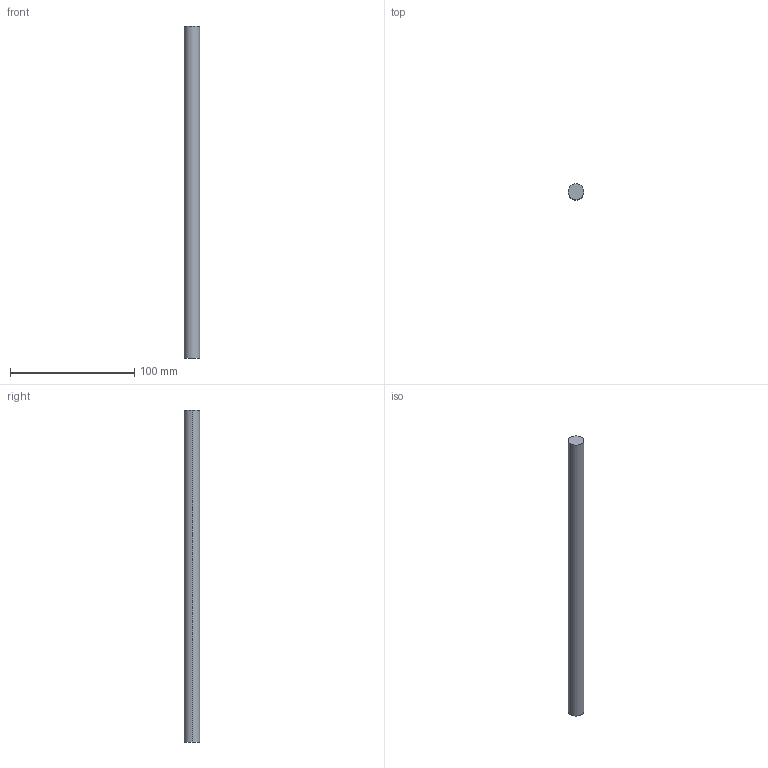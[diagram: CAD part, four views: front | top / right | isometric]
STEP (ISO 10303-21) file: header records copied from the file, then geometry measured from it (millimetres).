
FILE_DESCRIPTION (( 'STEP AP203' ), '1' );
FILE_NAME ('269-18-313.STEP', '2020-03-02T22:21:01', ( '' ), ( '' ), 'SwSTEP 2.0', 'SolidWorks 2017', '' );
FILE_SCHEMA (( 'CONFIG_CONTROL_DESIGN' ));
Length unit declared in the file: inch
Products named in the file (1): 269-18-313
Bounding box: 12.7 x 12.7 x 266.7 mm (x, y, z)
Volume: 33784.7 mm3; surface area: 10894.2 mm2
Topology: 1 solids, 1 shells, 4 faces, 6 edges, 4 vertices
Faces by surface type: cylinder 2, plane 2
Entity records: 173 total; most frequent: DIRECTION 20, CARTESIAN_POINT 15, ORIENTED_EDGE 12, AXIS2_PLACEMENT_3D 9, PERSON_AND_ORGANIZATION 8, EDGE_CURVE 6, COORDINATED_UNIVERSAL_TIME_OFFSET 5, PERSON_AND_ORGANIZATION_ROLE 5
